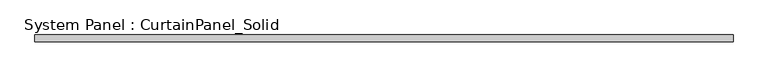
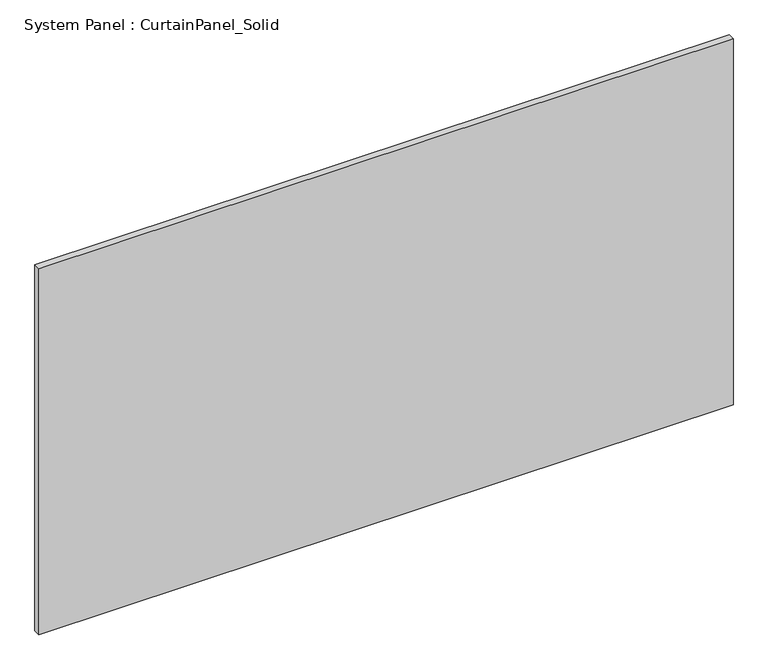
"""IFC4 building model written with IfcOpenShell, lengths in millimetres: plate geometry, System Panel : CurtainPanel_Solid."""

from ifc_helpers import new_model, si_unit, origin, origin_with_axes, place, context, project, spatial, polyline, outline, extrude, source, transform, mapped, element, save


def system_panel_curtainpanel_solid_58f7520c(model_context):
    return source(origin(), model_context, "Body", "SweptSolid", [
        extrude(outline(polyline([(1301.0000001, -12.5), (-1301.0000001, -12.5), (-1301.0000001, 12.5), (1301.0000001, 12.5), (1301.0000001, -12.5)])), origin_with_axes(), (0.0, 0.0, 1.0), 1450.0),
    ])


if __name__ == "__main__":
    model = new_model("IFC4")
    model_context = context("Model", 3, world=origin())
    ifc_project = project(units=[si_unit("LENGTHUNIT", "METRE", prefix="MILLI")], contexts=[model_context])
    site = spatial("IfcSite", under=ifc_project)
    building = spatial("IfcBuilding", under=site)
    placement = place(None, origin())
    system_panel_curtainpanel_solid_shape = system_panel_curtainpanel_solid_58f7520c(model_context)
    element("IfcPlate", 1, ObjectType="System Panel : CurtainPanel_Solid", at=placement, inside=building, context=model_context, shape_type="MappedRepresentation", body=[
        mapped(system_panel_curtainpanel_solid_shape, transform((0.0, 0.0, 0.0), x_axis=(1.0, 0.0, 0.0), y_axis=(0.0, 1.0, 0.0), z_axis=(0.0, 0.0, 1.0))),
    ])
    save(model, "model.ifc")
